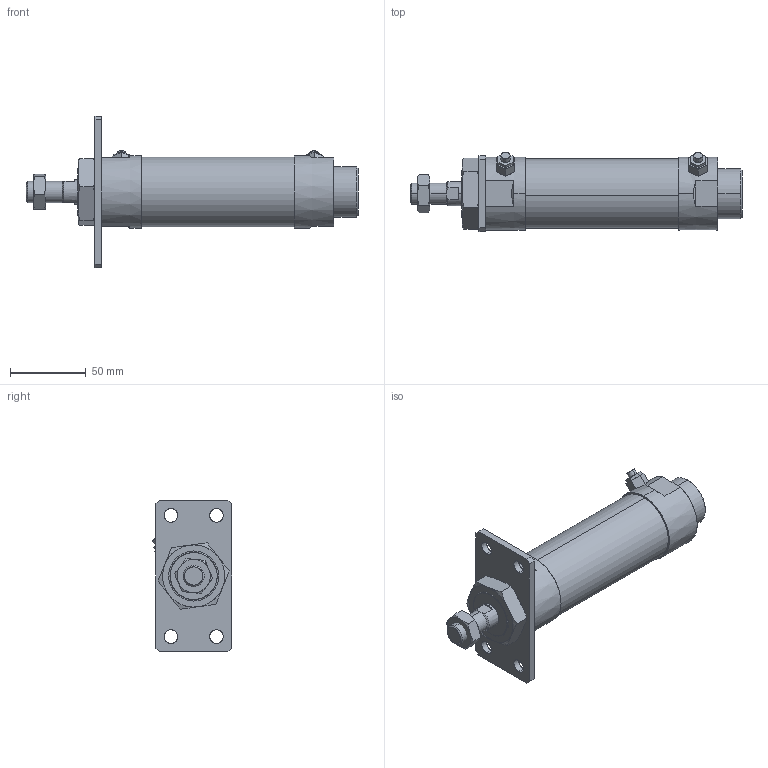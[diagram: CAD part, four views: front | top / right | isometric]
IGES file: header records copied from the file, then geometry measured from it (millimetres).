
Start section: SolidWorks IGES file using analytic representation for surfaces
Global section: file name: C:\Users\Toshiba\Desktop\JG2-40-50-A.IGS; native system: SolidWorks 2014; preprocessor: SolidWorks 2014; author: Toshiba; date: 160419.085145; units: millimetre
Bounding box: 219 x 52.22 x 100 mm (x, y, z)
Surface area: 55166.2 mm2 (no closed solid volume)
Topology: 0 solids, 0 shells, 150 faces, 2618 edges, 2614 vertices
Faces by surface type: bspline 99, revolution 51
